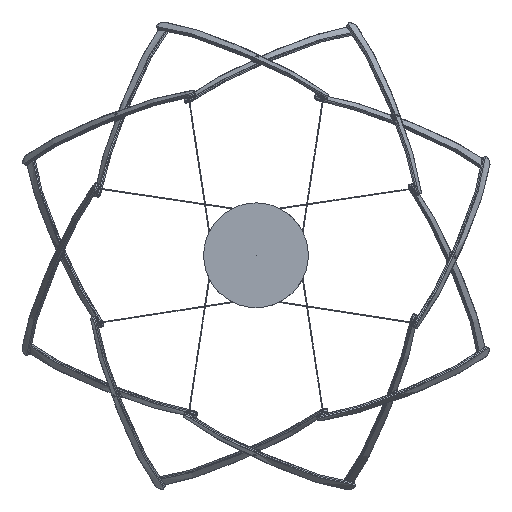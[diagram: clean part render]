
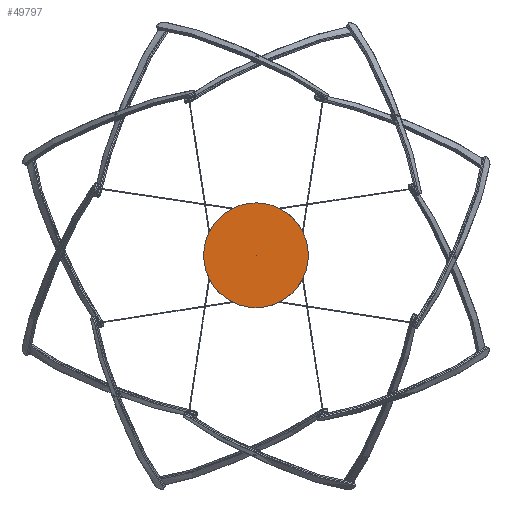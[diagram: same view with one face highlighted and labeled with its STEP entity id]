
A CAD part, top view. The second image highlights one B-rep face of the part: STEP entity #49797.
In plain terms, the highlighted free-form (B-spline) face has degree [3, 3] with [4, 11] control points.
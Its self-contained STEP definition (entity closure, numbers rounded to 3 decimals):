
#11370=FACE_OUTER_BOUND('',#13545,.T.);
#13545=EDGE_LOOP('',(#46954,#46955,#46956));
#18135=B_SPLINE_CURVE_WITH_KNOTS('',3,(#161463,#161464,#161465,#161466),
 .UNSPECIFIED.,.F.,.F.,(4,4),(0.,1.),.UNSPECIFIED.);
#18136=B_SPLINE_CURVE_WITH_KNOTS('',3,(#161467,#161468,#161469,#161470,
#161471,#161472,#161473,#161474,#161475,#161476,#161477),.UNSPECIFIED.,
 .T.,.F.,(4,1,1,1,1,1,1,1,4),(2.,3.,4.,5.,6.,7.,8.,9.,10.),
 .UNSPECIFIED.);
#27644=VERTEX_POINT('',#161461);
#27645=VERTEX_POINT('',#161462);
#37249=EDGE_CURVE('',#27644,#27645,#18135,.T.);
#37250=EDGE_CURVE('',#27645,#27645,#18136,.T.);
#46954=ORIENTED_EDGE('',*,*,#37249,.T.);
#46955=ORIENTED_EDGE('',*,*,#37250,.T.);
#46956=ORIENTED_EDGE('',*,*,#37249,.F.);
#47790=B_SPLINE_SURFACE_WITH_KNOTS('',3,3,((#161417,#161418,#161419,#161420,
#161421,#161422,#161423,#161424,#161425,#161426,#161427),(#161428,#161429,
#161430,#161431,#161432,#161433,#161434,#161435,#161436,#161437,#161438),
(#161439,#161440,#161441,#161442,#161443,#161444,#161445,#161446,#161447,
#161448,#161449),(#161450,#161451,#161452,#161453,#161454,#161455,#161456,
#161457,#161458,#161459,#161460)),.UNSPECIFIED.,.F.,.T.,.F.,(4,4),(4,1,
1,1,1,1,1,1,4),(0.,1.),(2.,3.,4.,5.,6.,7.,8.,9.,10.),.UNSPECIFIED.);
#49797=ADVANCED_FACE('',(#11370),#47790,.T.);
#161417=CARTESIAN_POINT('Ctrl Pts',(0.,0.,
42.343));
#161418=CARTESIAN_POINT('Ctrl Pts',(0.,0.,
42.343));
#161419=CARTESIAN_POINT('Ctrl Pts',(0.,0.,
42.343));
#161420=CARTESIAN_POINT('Ctrl Pts',(0.,0.,
42.343));
#161421=CARTESIAN_POINT('Ctrl Pts',(0.,0.,
42.343));
#161422=CARTESIAN_POINT('Ctrl Pts',(0.,0.,
42.343));
#161423=CARTESIAN_POINT('Ctrl Pts',(0.,0.,
42.343));
#161424=CARTESIAN_POINT('Ctrl Pts',(0.,0.,
42.343));
#161425=CARTESIAN_POINT('Ctrl Pts',(0.,0.,
42.343));
#161426=CARTESIAN_POINT('Ctrl Pts',(0.,0.,
42.343));
#161427=CARTESIAN_POINT('Ctrl Pts',(0.,0.,
42.343));
#161428=CARTESIAN_POINT('Ctrl Pts',(1.5,-0.003,
42.343));
#161429=CARTESIAN_POINT('Ctrl Pts',(1.501,0.389,
42.343));
#161430=CARTESIAN_POINT('Ctrl Pts',(1.177,1.173,42.343));
#161431=CARTESIAN_POINT('Ctrl Pts',(0.003,1.662,
42.343));
#161432=CARTESIAN_POINT('Ctrl Pts',(-1.173,1.177,42.343));
#161433=CARTESIAN_POINT('Ctrl Pts',(-1.662,0.003,
42.343));
#161434=CARTESIAN_POINT('Ctrl Pts',(-1.177,-1.173,42.343));
#161435=CARTESIAN_POINT('Ctrl Pts',(-0.003,-1.662,
42.343));
#161436=CARTESIAN_POINT('Ctrl Pts',(1.173,-1.177,42.343));
#161437=CARTESIAN_POINT('Ctrl Pts',(1.499,-0.394,
42.343));
#161438=CARTESIAN_POINT('Ctrl Pts',(1.5,-0.003,
42.343));
#161439=CARTESIAN_POINT('Ctrl Pts',(3.,-0.005,
42.343));
#161440=CARTESIAN_POINT('Ctrl Pts',(3.001,0.778,
42.343));
#161441=CARTESIAN_POINT('Ctrl Pts',(2.355,2.347,42.343));
#161442=CARTESIAN_POINT('Ctrl Pts',(0.006,3.325,
42.343));
#161443=CARTESIAN_POINT('Ctrl Pts',(-2.347,2.355,42.343));
#161444=CARTESIAN_POINT('Ctrl Pts',(-3.325,0.006,
42.343));
#161445=CARTESIAN_POINT('Ctrl Pts',(-2.355,-2.347,
42.343));
#161446=CARTESIAN_POINT('Ctrl Pts',(-0.006,-3.325,
42.343));
#161447=CARTESIAN_POINT('Ctrl Pts',(2.347,-2.355,42.343));
#161448=CARTESIAN_POINT('Ctrl Pts',(2.999,-0.789,
42.343));
#161449=CARTESIAN_POINT('Ctrl Pts',(3.,-0.005,
42.343));
#161450=CARTESIAN_POINT('Ctrl Pts',(4.5,-0.008,
42.343));
#161451=CARTESIAN_POINT('Ctrl Pts',(4.502,1.168,42.343));
#161452=CARTESIAN_POINT('Ctrl Pts',(3.532,3.52,42.343));
#161453=CARTESIAN_POINT('Ctrl Pts',(0.009,4.987,
42.343));
#161454=CARTESIAN_POINT('Ctrl Pts',(-3.52,3.532,42.343));
#161455=CARTESIAN_POINT('Ctrl Pts',(-4.987,0.009,
42.343));
#161456=CARTESIAN_POINT('Ctrl Pts',(-3.532,-3.52,42.343));
#161457=CARTESIAN_POINT('Ctrl Pts',(-0.009,-4.987,
42.343));
#161458=CARTESIAN_POINT('Ctrl Pts',(3.52,-3.532,42.343));
#161459=CARTESIAN_POINT('Ctrl Pts',(4.498,-1.183,42.343));
#161460=CARTESIAN_POINT('Ctrl Pts',(4.5,-0.008,
42.343));
#161461=CARTESIAN_POINT('',(0.,0.,
42.343));
#161462=CARTESIAN_POINT('',(4.5,-0.008,42.343));
#161463=CARTESIAN_POINT('Ctrl Pts',(0.,0.,
42.343));
#161464=CARTESIAN_POINT('Ctrl Pts',(1.5,-0.003,
42.343));
#161465=CARTESIAN_POINT('Ctrl Pts',(3.,-0.005,
42.343));
#161466=CARTESIAN_POINT('Ctrl Pts',(4.5,-0.008,
42.343));
#161467=CARTESIAN_POINT('Ctrl Pts',(4.5,-0.008,
42.343));
#161468=CARTESIAN_POINT('Ctrl Pts',(4.502,1.168,42.343));
#161469=CARTESIAN_POINT('Ctrl Pts',(3.532,3.52,42.343));
#161470=CARTESIAN_POINT('Ctrl Pts',(0.009,4.987,
42.343));
#161471=CARTESIAN_POINT('Ctrl Pts',(-3.52,3.532,42.343));
#161472=CARTESIAN_POINT('Ctrl Pts',(-4.987,0.009,
42.343));
#161473=CARTESIAN_POINT('Ctrl Pts',(-3.532,-3.52,42.343));
#161474=CARTESIAN_POINT('Ctrl Pts',(-0.009,-4.987,
42.343));
#161475=CARTESIAN_POINT('Ctrl Pts',(3.52,-3.532,42.343));
#161476=CARTESIAN_POINT('Ctrl Pts',(4.498,-1.183,42.343));
#161477=CARTESIAN_POINT('Ctrl Pts',(4.5,-0.008,
42.343));
